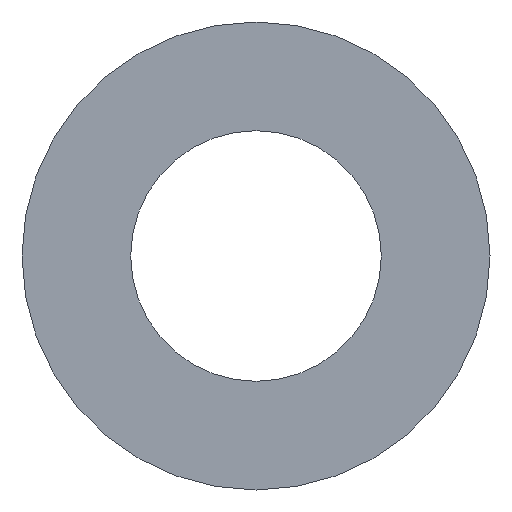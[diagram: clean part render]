
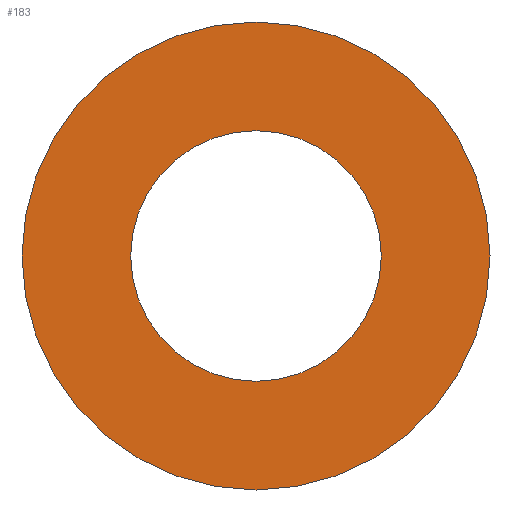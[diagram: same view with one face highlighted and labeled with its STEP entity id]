
A CAD part, left-side view. The second image highlights one B-rep face of the part: STEP entity #183.
In plain terms, the highlighted planar face has unit normal (-1, 0, 0).
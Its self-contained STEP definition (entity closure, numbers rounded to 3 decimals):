
#22 = VERTEX_POINT('',#23);
#23 = CARTESIAN_POINT('',(21.4,14.,0.));
#32 = CYLINDRICAL_SURFACE('',#33,14.);
#33 = AXIS2_PLACEMENT_3D('',#34,#35,#36);
#34 = CARTESIAN_POINT('',(21.4,0.,0.));
#35 = DIRECTION('',(-1.,-0.,-0.));
#36 = DIRECTION('',(0.,1.,0.));
#79 = EDGE_CURVE('',#22,#22,#80,.T.);
#80 = SURFACE_CURVE('',#81,(#86,#93),.PCURVE_S1.);
#81 = CIRCLE('',#82,14.);
#82 = AXIS2_PLACEMENT_3D('',#83,#84,#85);
#83 = CARTESIAN_POINT('',(21.4,0.,0.));
#84 = DIRECTION('',(1.,0.,0.));
#85 = DIRECTION('',(0.,1.,0.));
#86 = PCURVE('',#32,#87);
#87 = DEFINITIONAL_REPRESENTATION('',(#88),#92);
#88 = LINE('',#89,#90);
#89 = CARTESIAN_POINT('',(-0.,0.));
#90 = VECTOR('',#91,1.);
#91 = DIRECTION('',(-1.,0.));
#92 = ( GEOMETRIC_REPRESENTATION_CONTEXT(2) 
PARAMETRIC_REPRESENTATION_CONTEXT() REPRESENTATION_CONTEXT('2D SPACE',''
  ) );
#93 = PCURVE('',#94,#99);
#94 = PLANE('',#95);
#95 = AXIS2_PLACEMENT_3D('',#96,#97,#98);
#96 = CARTESIAN_POINT('',(21.4,0.,0.));
#97 = DIRECTION('',(1.,0.,0.));
#98 = DIRECTION('',(-0.,0.,1.));
#99 = DEFINITIONAL_REPRESENTATION('',(#100),#104);
#100 = CIRCLE('',#101,14.);
#101 = AXIS2_PLACEMENT_2D('',#102,#103);
#102 = CARTESIAN_POINT('',(0.,0.));
#103 = DIRECTION('',(0.,-1.));
#104 = ( GEOMETRIC_REPRESENTATION_CONTEXT(2) 
PARAMETRIC_REPRESENTATION_CONTEXT() REPRESENTATION_CONTEXT('2D SPACE',''
  ) );
#110 = VERTEX_POINT('',#111);
#111 = CARTESIAN_POINT('',(21.4,7.5,0.));
#120 = CYLINDRICAL_SURFACE('',#121,7.5);
#121 = AXIS2_PLACEMENT_3D('',#122,#123,#124);
#122 = CARTESIAN_POINT('',(21.4,0.,0.));
#123 = DIRECTION('',(-1.,-0.,-0.));
#124 = DIRECTION('',(0.,1.,0.));
#162 = EDGE_CURVE('',#110,#110,#163,.T.);
#163 = SURFACE_CURVE('',#164,(#169,#176),.PCURVE_S1.);
#164 = CIRCLE('',#165,7.5);
#165 = AXIS2_PLACEMENT_3D('',#166,#167,#168);
#166 = CARTESIAN_POINT('',(21.4,0.,0.));
#167 = DIRECTION('',(1.,0.,0.));
#168 = DIRECTION('',(0.,1.,0.));
#169 = PCURVE('',#120,#170);
#170 = DEFINITIONAL_REPRESENTATION('',(#171),#175);
#171 = LINE('',#172,#173);
#172 = CARTESIAN_POINT('',(-0.,0.));
#173 = VECTOR('',#174,1.);
#174 = DIRECTION('',(-1.,0.));
#175 = ( GEOMETRIC_REPRESENTATION_CONTEXT(2) 
PARAMETRIC_REPRESENTATION_CONTEXT() REPRESENTATION_CONTEXT('2D SPACE',''
  ) );
#176 = PCURVE('',#94,#177);
#177 = DEFINITIONAL_REPRESENTATION('',(#178),#182);
#178 = CIRCLE('',#179,7.5);
#179 = AXIS2_PLACEMENT_2D('',#180,#181);
#180 = CARTESIAN_POINT('',(0.,0.));
#181 = DIRECTION('',(0.,-1.));
#182 = ( GEOMETRIC_REPRESENTATION_CONTEXT(2) 
PARAMETRIC_REPRESENTATION_CONTEXT() REPRESENTATION_CONTEXT('2D SPACE',''
  ) );
#183 = ADVANCED_FACE('',(#184,#187),#94,.F.);
#184 = FACE_BOUND('',#185,.F.);
#185 = EDGE_LOOP('',(#186));
#186 = ORIENTED_EDGE('',*,*,#79,.T.);
#187 = FACE_BOUND('',#188,.F.);
#188 = EDGE_LOOP('',(#189));
#189 = ORIENTED_EDGE('',*,*,#162,.F.);
